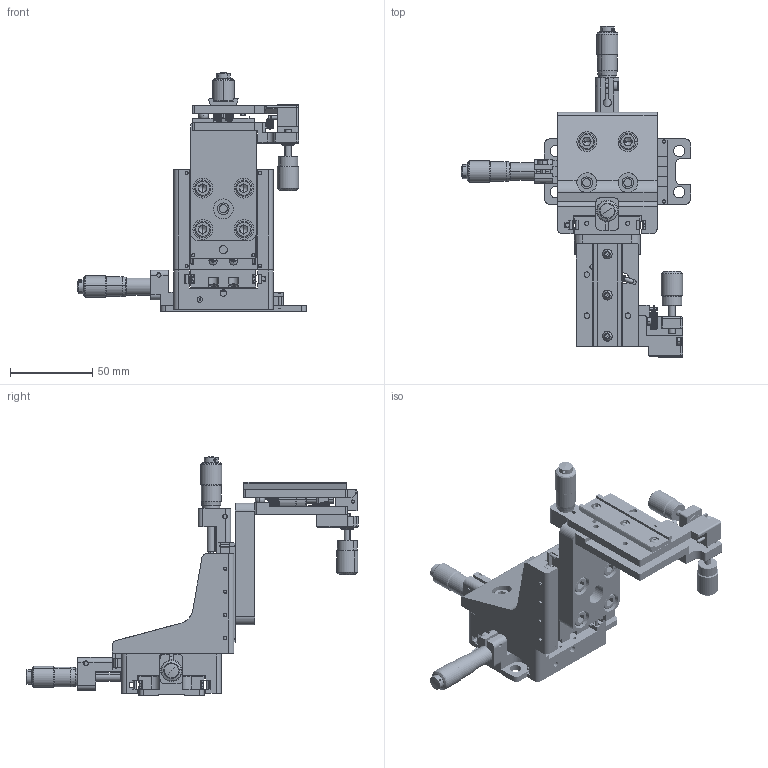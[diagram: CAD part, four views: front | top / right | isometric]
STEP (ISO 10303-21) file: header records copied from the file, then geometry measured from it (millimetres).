
FILE_DESCRIPTION (( 'STEP AP203' ), '1' );
FILE_NAME ('7SAM503L五维光纤调整架（左手型）.STEP', '2022-04-01T07:46:41', ( '' ), ( '' ), 'SwSTEP 2.0', 'SolidWorks 2018', '' );
FILE_SCHEMA (( 'CONFIG_CONTROL_DESIGN' ));
Length unit declared in the file: millimetre
Products named in the file (1): 7SAM503L五维光纤调整架（左手型）
Bounding box: 139.4 x 201.9 x 145.15 mm (x, y, z)
Surface area: 120136.8 mm2 (no closed solid volume)
Topology: 0 solids, 179 shells, 1237 faces, 3995 edges, 2768 vertices
Faces by surface type: plane 520, cylinder 465, cone 152, torus 55, sphere 34, bspline 11
Entity records: 66331 total; most frequent: CARTESIAN_POINT 30272, DIRECTION 8144, ORIENTED_EDGE 6435, EDGE_CURVE 3955, AXIS2_PLACEMENT_3D 3072, VERTEX_POINT 2762, VECTOR 2000, LINE 2000
